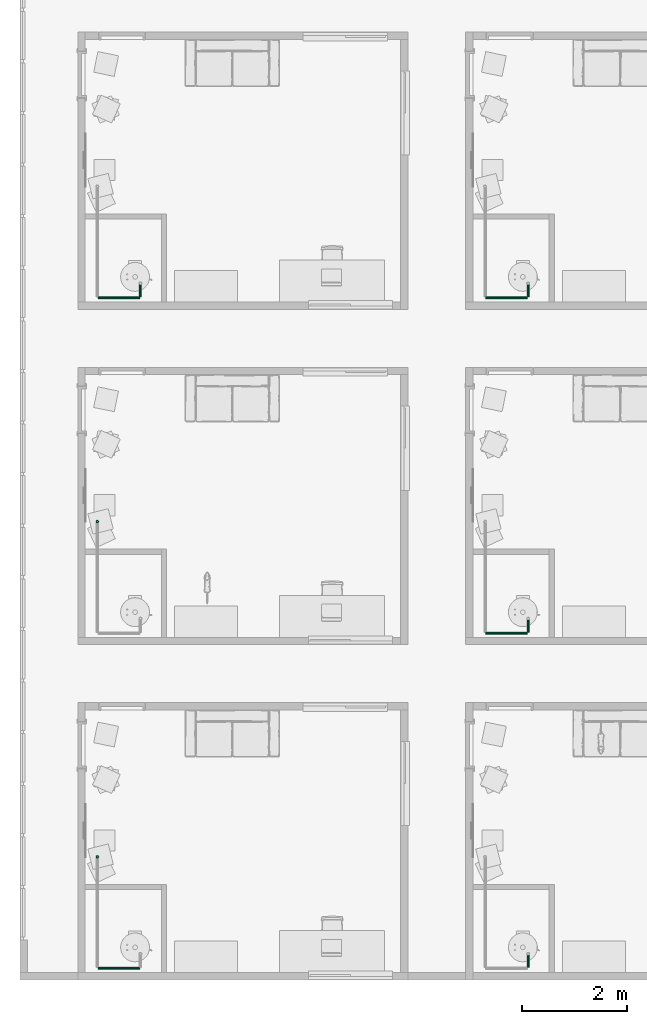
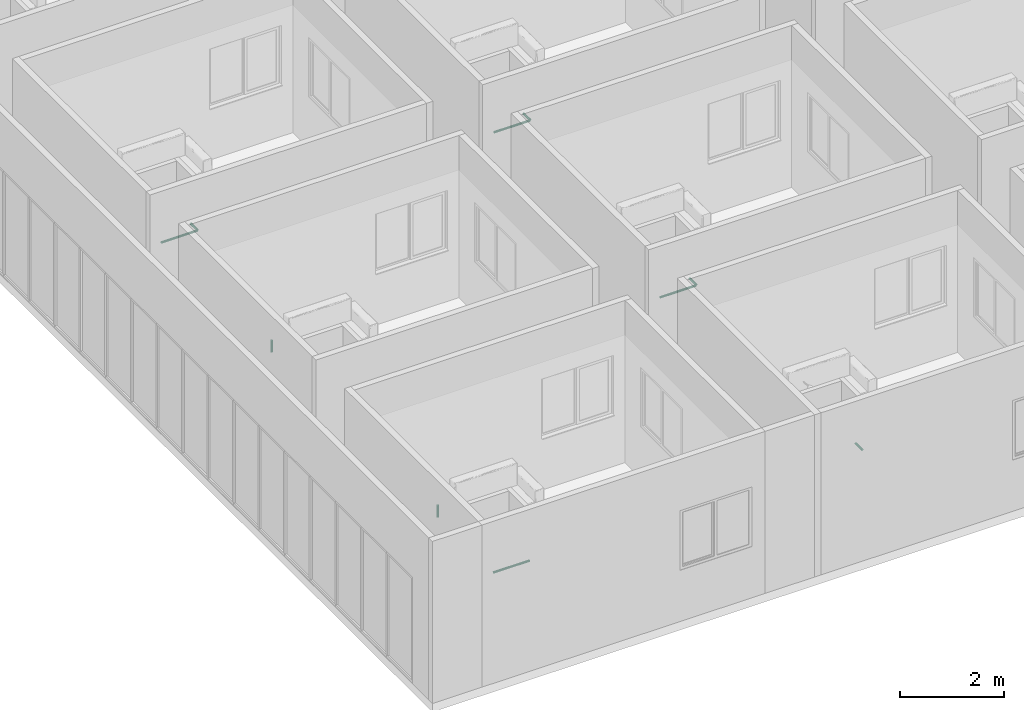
# One storey, part 40 of 71: 10 pipe segments.
"""IFC4 building model written with IfcOpenShell, lengths in centimetres."""

from ifc_helpers import new_model, entity, si_unit, converted_unit, derived_unit, direction, frame, origin, place, context, subcontext, project, spatial, arc, indexed_curve, outline, extrude, type_object, element, save


model = new_model("IFC4")

# Units and contexts
model_context = context("Model", 3, precision=0.001, world=origin(), true_north=direction((6.123233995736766e-17, 1.0)))
body_context = subcontext(model_context, "Body", "Model", "MODEL_VIEW")
ifc_project = project(units=[si_unit("LENGTHUNIT", "METRE", prefix="CENTI"), si_unit("AREAUNIT", "SQUARE_METRE"), si_unit("VOLUMEUNIT", "CUBIC_METRE"), derived_unit("THERMALTRANSMITTANCEUNIT", [(si_unit("MASSUNIT", "GRAM", prefix="KILO"), 1), (si_unit("THERMODYNAMICTEMPERATUREUNIT", "KELVIN"), -1), (si_unit("TIMEUNIT", "SECOND"), -3)]), converted_unit("PLANEANGLEUNIT", "DEGREE", entity("IfcPlaneAngleMeasure", 0.017453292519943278), si_unit("PLANEANGLEUNIT", "RADIAN"), dimensions=[0, 0, 0, 0, 0, 0, 0]), derived_unit("MASSDENSITYUNIT", [(si_unit("MASSUNIT", "GRAM", prefix="KILO"), 1), (si_unit("LENGTHUNIT", "METRE"), -3)]), derived_unit("VAPORPERMEABILITYUNIT", [(si_unit("LENGTHUNIT", "METRE"), -1), (si_unit("TIMEUNIT", "SECOND"), 1)]), derived_unit("USERDEFINED", [(si_unit("MASSUNIT", "GRAM", prefix="KILO"), 1), (si_unit("TIMEUNIT", "SECOND"), -3), (si_unit("LENGTHUNIT", "METRE"), 3), (si_unit("ELECTRICCURRENTUNIT", "AMPERE"), -2)]), derived_unit("SPECIFICHEATCAPACITYUNIT", [(si_unit("THERMODYNAMICTEMPERATUREUNIT", "KELVIN"), -1), (si_unit("LENGTHUNIT", "METRE"), 2), (si_unit("TIMEUNIT", "SECOND"), -2)]), derived_unit("THERMALCONDUCTANCEUNIT", [(si_unit("MASSUNIT", "GRAM", prefix="KILO"), 1), (si_unit("THERMODYNAMICTEMPERATUREUNIT", "KELVIN"), -1), (si_unit("TIMEUNIT", "SECOND"), -3), (si_unit("LENGTHUNIT", "METRE"), 1)]), si_unit("PRESSUREUNIT", "PASCAL"), derived_unit("MODULUSOFELASTICITYUNIT", [(si_unit("MASSUNIT", "GRAM", prefix="KILO"), 1), (si_unit("LENGTHUNIT", "METRE"), -1), (si_unit("TIMEUNIT", "SECOND"), -2)]), derived_unit("THERMALEXPANSIONCOEFFICIENTUNIT", [(si_unit("THERMODYNAMICTEMPERATUREUNIT", "KELVIN"), -1)])], contexts=[model_context])

# Site, building, storey
site_placement = place(None, origin())
site = spatial("IfcSite", under=ifc_project, at=site_placement, Name="Default", CompositionType="ELEMENT")
building_placement = place(site_placement, origin())
building = spatial("IfcBuilding", under=site, at=building_placement, Name="IDS Escape Game Building", CompositionType="ELEMENT")
storey_placement = place(building_placement, frame((0.0, 0.0, 1200.0)))
storey = spatial("IfcBuildingStorey", under=building, at=storey_placement, Name="03_Third Floor", CompositionType="ELEMENT", Elevation=1200.0)

# Pipe segments
pipe_segment_type = type_object("IfcPipeSegmentType", Name="Pipe Types:Piping Aluminum", PredefinedType="NOTDEFINED")
pipe_segment_1_placement = place(storey_placement, origin())
element("IfcPipeSegment", 1, at=pipe_segment_1_placement, inside=storey, type_object=pipe_segment_type, Name="Pipe Types:Piping Aluminum", ObjectType="Pipe Types:Piping Aluminum", PredefinedType="NOTDEFINED", context=body_context, shape_type="SweptSolid", body=[
    extrude(outline(indexed_curve([(2.412999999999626, -2.165734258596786e-13), (1.7062486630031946, 1.7062486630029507), (3.790034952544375e-13, 2.4130000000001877), (-1.7062486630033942, 1.706248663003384), (-2.4130000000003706, -2.165734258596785e-13), (-1.70624866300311, -1.706248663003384), (3.654676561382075e-13, -2.4129999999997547), (1.7062486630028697, -1.7062486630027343)], segments=[arc(1, 2, 3), arc(3, 4, 5), arc(5, 6, 7), arc(7, 8, 1)], self_intersect=False)), frame((31.14671687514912, 21.264827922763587, 242.0), z_axis=(1.0, 0.0, 0.0), x_axis=(0.0, 1.0, 0.0)), (0.0, 0.0, 1.0), 79.9032831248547),
])
pipe_segment_2_placement = place(storey_placement, origin())
element("IfcPipeSegment", 2, at=pipe_segment_2_placement, inside=storey, type_object=pipe_segment_type, Name="Pipe Types:Piping Aluminum", ObjectType="Pipe Types:Piping Aluminum", PredefinedType="NOTDEFINED", context=body_context, shape_type="SweptSolid", body=[
    extrude(outline(indexed_curve([(2.4130000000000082, -2.7071678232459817e-14), (1.706248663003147, 1.7062486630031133), (-3.383959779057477e-15, 2.412999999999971), (-1.7062486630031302, 1.7062486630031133), (-2.412999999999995, 0.0), (-1.7062486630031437, -1.7062486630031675), (-6.767919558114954e-15, -2.413000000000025), (1.7062486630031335, -1.7062486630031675)], segments=[arc(1, 2, 3), arc(3, 4, 5), arc(5, 6, 7), arc(7, 8, 1)], self_intersect=False)), frame((30.046716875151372, 233.26482792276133, 244.09999999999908), z_axis=(0.0, 0.0, 1.0), x_axis=(-1.0, 0.0, 0.0)), (0.0, 0.0, 1.0), 27.90000000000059),
])
pipe_segment_3_placement = place(storey_placement, origin())
element("IfcPipeSegment", 3, at=pipe_segment_3_placement, inside=storey, type_object=pipe_segment_type, Name="Pipe Types:Piping Aluminum", ObjectType="Pipe Types:Piping Aluminum", PredefinedType="NOTDEFINED", context=body_context, shape_type="SweptSolid", body=[
    extrude(outline(indexed_curve([(2.4129999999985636, 0.0), (1.7062486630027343, 1.7062486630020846), (1.4077272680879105e-12, 2.412999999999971), (-1.7062486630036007, 1.7062486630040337), (-2.4130000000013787, 0.0), (-1.7062486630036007, -1.7062486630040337), (1.4077272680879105e-12, -2.412999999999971), (1.7062486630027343, -1.7062486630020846)], segments=[arc(1, 2, 3), arc(3, 4, 5), arc(5, 6, 7), arc(7, 8, 1)], self_intersect=False)), frame((850.1500000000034, 22.364827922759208, 242.0), z_axis=(0.0, 1.0, 0.0), x_axis=(-1.0, 0.0, 0.0)), (0.0, 0.0, 1.0), 25.43517207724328),
])
pipe_segment_4_placement = place(storey_placement, origin())
element("IfcPipeSegment", 4, at=pipe_segment_4_placement, inside=storey, type_object=pipe_segment_type, Name="Pipe Types:Piping Aluminum", ObjectType="Pipe Types:Piping Aluminum", PredefinedType="NOTDEFINED", context=body_context, shape_type="SweptSolid", body=[
    extrude(outline(indexed_curve([(2.4130000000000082, 0.0), (1.706248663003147, 1.7062486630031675), (-3.383959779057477e-15, 2.412999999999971), (-1.7062486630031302, 1.7062486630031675), (-2.412999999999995, 0.0), (-1.7062486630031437, -1.7062486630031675), (-6.767919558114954e-15, -2.412999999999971), (1.7062486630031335, -1.7062486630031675)], segments=[arc(1, 2, 3), arc(3, 4, 5), arc(5, 6, 7), arc(7, 8, 1)], self_intersect=False)), frame((30.0467168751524, 871.2648279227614, 244.09999999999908), z_axis=(0.0, 0.0, 1.0), x_axis=(-1.0, 0.0, 0.0)), (0.0, 0.0, 1.0), 27.90000000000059),
])
pipe_segment_5_placement = place(storey_placement, origin())
element("IfcPipeSegment", 5, at=pipe_segment_5_placement, inside=storey, type_object=pipe_segment_type, Name="Pipe Types:Piping Aluminum", ObjectType="Pipe Types:Piping Aluminum", PredefinedType="NOTDEFINED", context=body_context, shape_type="SweptSolid", body=[
    extrude(outline(indexed_curve([(2.4129999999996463, -2.165734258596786e-13), (1.7062486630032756, 1.7062486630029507), (4.331468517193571e-13, 2.4130000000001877), (-1.706248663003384, 1.706248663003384), (-2.413000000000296, -2.165734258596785e-13), (-1.706248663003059, -1.706248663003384), (4.3314685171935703e-13, -2.4129999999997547), (1.7062486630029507, -1.7062486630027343)], segments=[arc(1, 2, 3), arc(3, 4, 5), arc(5, 6, 7), arc(7, 8, 1)], self_intersect=False)), frame((769.1467168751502, 659.2648279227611, 242.0), z_axis=(1.0, 0.0, 0.0), x_axis=(0.0, 1.0, 0.0)), (0.0, 0.0, 1.0), 79.90328312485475),
])
pipe_segment_6_placement = place(storey_placement, origin())
element("IfcPipeSegment", 6, at=pipe_segment_6_placement, inside=storey, type_object=pipe_segment_type, Name="Pipe Types:Piping Aluminum", ObjectType="Pipe Types:Piping Aluminum", PredefinedType="NOTDEFINED", context=body_context, shape_type="SweptSolid", body=[
    extrude(outline(indexed_curve([(2.4129999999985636, 0.0), (1.7062486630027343, 1.7062486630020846), (1.4077272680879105e-12, 2.412999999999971), (-1.7062486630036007, 1.7062486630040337), (-2.4130000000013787, 0.0), (-1.7062486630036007, -1.7062486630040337), (1.4077272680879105e-12, -2.412999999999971), (1.7062486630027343, -1.7062486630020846)], segments=[arc(1, 2, 3), arc(3, 4, 5), arc(5, 6, 7), arc(7, 8, 1)], self_intersect=False)), frame((850.1500000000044, 660.3648279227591, 242.0), z_axis=(0.0, 1.0, 0.0), x_axis=(-1.0, 0.0, 0.0)), (0.0, 0.0, 1.0), 25.43517207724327),
])
pipe_segment_7_placement = place(storey_placement, origin())
element("IfcPipeSegment", 7, at=pipe_segment_7_placement, inside=storey, type_object=pipe_segment_type, Name="Pipe Types:Piping Aluminum", ObjectType="Pipe Types:Piping Aluminum", PredefinedType="NOTDEFINED", context=body_context, shape_type="SweptSolid", body=[
    extrude(outline(indexed_curve([(2.412999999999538, -2.165734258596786e-13), (1.7062486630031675, 1.7062486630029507), (4.331468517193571e-13, 2.4130000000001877), (-1.706248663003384, 1.7062486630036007), (-2.4130000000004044, -2.165734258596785e-13), (-1.7062486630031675, -1.706248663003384), (4.3314685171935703e-13, -2.4129999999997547), (1.7062486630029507, -1.7062486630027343)], segments=[arc(1, 2, 3), arc(3, 4, 5), arc(5, 6, 7), arc(7, 8, 1)], self_intersect=False)), frame((31.14671687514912, 1297.2648279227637, 242.0), z_axis=(1.0, 0.0, 0.0), x_axis=(0.0, 1.0, 0.0)), (0.0, 0.0, 1.0), 79.9032831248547),
])
pipe_segment_8_placement = place(storey_placement, origin())
element("IfcPipeSegment", 8, at=pipe_segment_8_placement, inside=storey, type_object=pipe_segment_type, Name="Pipe Types:Piping Aluminum", ObjectType="Pipe Types:Piping Aluminum", PredefinedType="NOTDEFINED", context=body_context, shape_type="SweptSolid", body=[
    extrude(outline(indexed_curve([(2.412999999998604, 0.0), (1.7062486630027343, 1.7062486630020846), (1.3941914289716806e-12, 2.412999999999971), (-1.7062486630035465, 1.7062486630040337), (-2.4130000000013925, 0.0), (-1.70624866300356, -1.7062486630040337), (1.3806555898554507e-12, -2.412999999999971), (1.7062486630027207, -1.7062486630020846)], segments=[arc(1, 2, 3), arc(3, 4, 5), arc(5, 6, 7), arc(7, 8, 1)], self_intersect=False)), frame((112.15000000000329, 1298.3648279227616, 242.0), z_axis=(0.0, 1.0, 0.0), x_axis=(-1.0, 0.0, 0.0)), (0.0, 0.0, 1.0), 25.43517207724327),
])
pipe_segment_9_placement = place(storey_placement, origin())
element("IfcPipeSegment", 9, at=pipe_segment_9_placement, inside=storey, type_object=pipe_segment_type, Name="Pipe Types:Piping Aluminum", ObjectType="Pipe Types:Piping Aluminum", PredefinedType="NOTDEFINED", context=body_context, shape_type="SweptSolid", body=[
    extrude(outline(indexed_curve([(2.412999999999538, -2.165734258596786e-13), (1.7062486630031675, 1.7062486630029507), (4.331468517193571e-13, 2.4130000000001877), (-1.706248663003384, 1.7062486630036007), (-2.4130000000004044, -2.165734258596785e-13), (-1.7062486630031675, -1.706248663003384), (4.3314685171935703e-13, -2.4129999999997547), (1.7062486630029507, -1.7062486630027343)], segments=[arc(1, 2, 3), arc(3, 4, 5), arc(5, 6, 7), arc(7, 8, 1)], self_intersect=False)), frame((769.1467168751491, 1297.2648279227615, 242.0), z_axis=(1.0, 0.0, 0.0), x_axis=(0.0, 1.0, 0.0)), (0.0, 0.0, 1.0), 79.90328312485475),
])
pipe_segment_10_placement = place(storey_placement, origin())
element("IfcPipeSegment", 10, at=pipe_segment_10_placement, inside=storey, type_object=pipe_segment_type, Name="Pipe Types:Piping Aluminum", ObjectType="Pipe Types:Piping Aluminum", PredefinedType="NOTDEFINED", context=body_context, shape_type="SweptSolid", body=[
    extrude(outline(indexed_curve([(2.4129999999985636, 0.0), (1.7062486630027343, 1.7062486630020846), (1.4077272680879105e-12, 2.412999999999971), (-1.7062486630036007, 1.7062486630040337), (-2.4130000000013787, 0.0), (-1.7062486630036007, -1.7062486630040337), (1.4077272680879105e-12, -2.412999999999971), (1.7062486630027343, -1.7062486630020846)], segments=[arc(1, 2, 3), arc(3, 4, 5), arc(5, 6, 7), arc(7, 8, 1)], self_intersect=False)), frame((850.1500000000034, 1298.364827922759, 242.0), z_axis=(0.0, 1.0, 0.0), x_axis=(-1.0, 0.0, 0.0)), (0.0, 0.0, 1.0), 25.435172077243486),
])

save(model, "model.ifc")
